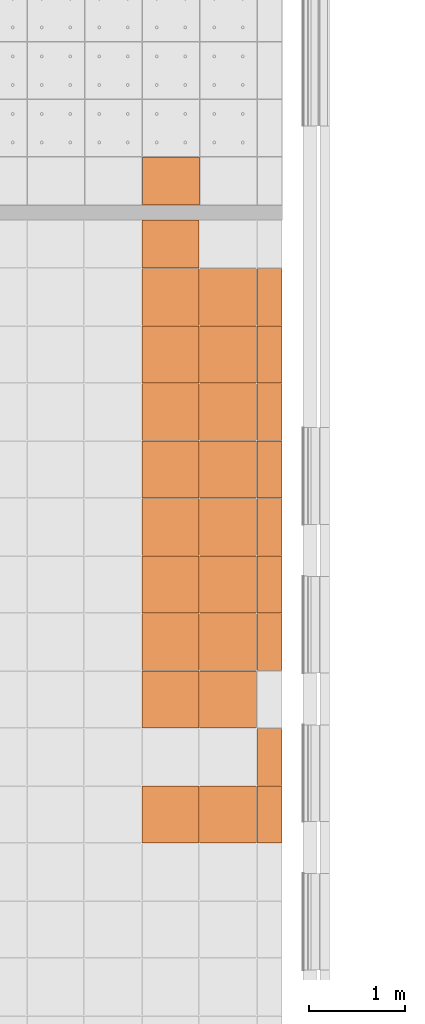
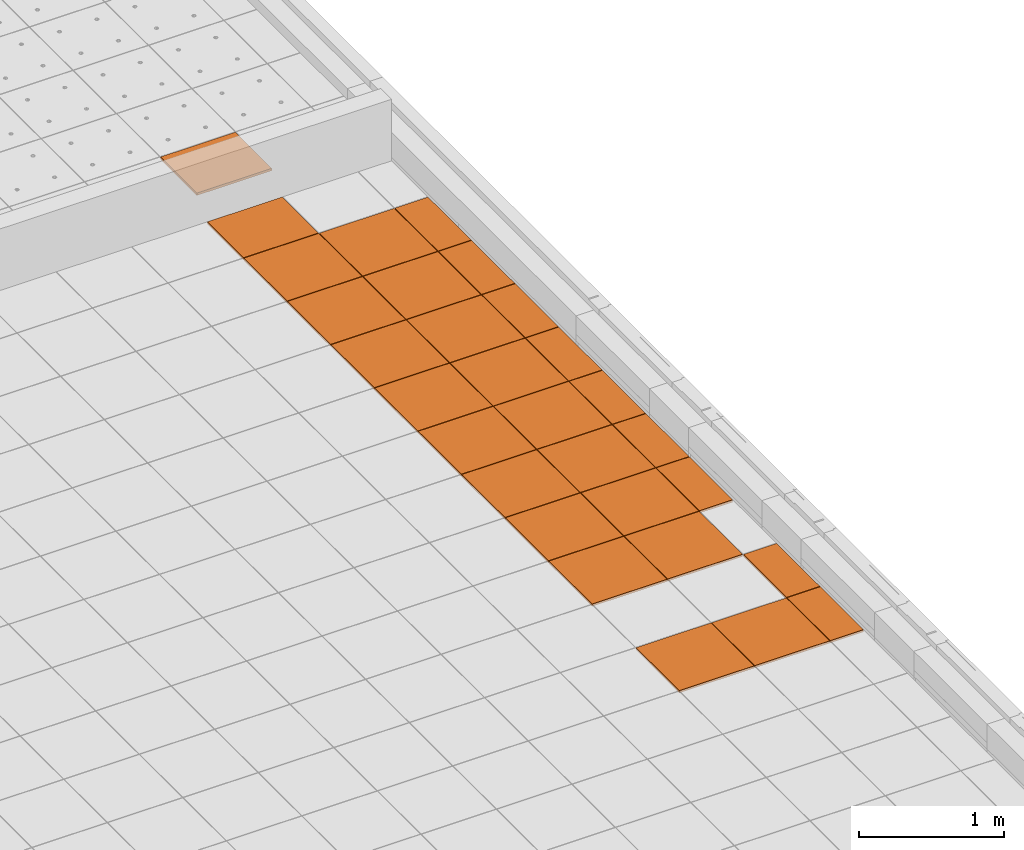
# One storey, part 224 of 338: 29 proxies, 2 elements without a shape of their own.
"""IFC2X3 building model written with IfcOpenShell, lengths in millimetres."""

import ifcopenshell
import ifcopenshell.guid

model = None  # the IFC model being written
_history = None  # IfcOwnerHistory: only IFC2X3 demands one
_inside = {}  # id of a spatial element -> (the spatial element, [elements in it])
_under = {}  # id of a project, library or spatial element -> (it, [spatial elements below it])
_declared = {}  # id of a project -> (the project, [libraries it declares])
_typed = {}  # id of a type object -> (the type object, [elements of that type])
_made_of = {}  # id of a material, layer set ... -> (it, [elements and type objects made of it])


def new_model(schema):
    """Start an empty IFC model of exactly this schema.

    Asked for "IFC4X3", IfcOpenShell would pick the latest addendum, in which some entities
    have other attributes; the version numbers below select the first issue.
    IFC2X3 requires an IfcOwnerHistory on every rooted entity: one is made here for all.
    """
    global model, _history
    if schema == "IFC4X3":
        model = ifcopenshell.file(schema_version=(4, 3, 0, 0))
    else:
        model = ifcopenshell.file(schema=schema)
    _inside.clear()
    _under.clear()
    _declared.clear()
    _typed.clear()
    _made_of.clear()
    _history = None
    if model.schema == "IFC2X3":
        org = make("IfcOrganization", Name="unknown")
        user = make(
            "IfcPersonAndOrganization",
            ThePerson=make("IfcPerson", FamilyName="unknown"),
            TheOrganization=org,
        )
        app = make(
            "IfcApplication",
            ApplicationDeveloper=org,
            Version="unknown",
            ApplicationFullName="unknown",
            ApplicationIdentifier="unknown",
        )
        _history = make(
            "IfcOwnerHistory",
            OwningUser=user,
            OwningApplication=app,
            ChangeAction="ADDED",
            CreationDate=0,
        )
    return model


def make(cls, **values):
    """One entity of the class cls with the attributes given. An attribute that is None is left unset."""
    return model.create_entity(
        cls, **{name: value for name, value in values.items() if value is not None}
    )


def entity(cls, *values):
    """Any entity or typed value of the class cls, its attributes in the order of the schema. None: left unset."""
    e = model.create_entity(cls)
    for i, value in enumerate(values):
        if value is not None:
            e[i] = value
    return e


def rooted(cls, **values):
    """An entity with a GlobalId (a new one), such as an element, a storey or a relation."""
    return make(cls, GlobalId=ifcopenshell.guid.new(), OwnerHistory=_history, **values)


def si_unit(unit_type, name, prefix=None):
    """IfcSIUnit, for example si_unit("LENGTHUNIT", "METRE", prefix="MILLI")."""
    return make("IfcSIUnit", UnitType=unit_type, Prefix=prefix, Name=name)


def converted_unit(unit_type, name, factor, base, dimensions=None, offset=None):
    """IfcConversionBasedUnit, such as the inch: factor (a typed value) times the base unit."""
    return make(
        "IfcConversionBasedUnit"
        if offset is None
        else "IfcConversionBasedUnitWithOffset",
        ConversionOffset=offset,
        Dimensions=None
        if dimensions is None
        else entity("IfcDimensionalExponents", *dimensions),
        UnitType=unit_type,
        Name=name,
        ConversionFactor=make(
            "IfcMeasureWithUnit", ValueComponent=factor, UnitComponent=base
        ),
    )


def derived_unit(unit_type, elements):
    """IfcDerivedUnit: a product of units, each with its exponent."""
    return make(
        "IfcDerivedUnit",
        Elements=[
            make("IfcDerivedUnitElement", Unit=unit, Exponent=power)
            for unit, power in elements
        ],
        UnitType=unit_type,
    )


def money_unit(currency):
    """IfcMonetaryUnit."""
    return make("IfcMonetaryUnit", Currency=currency)


def assignment(units):
    """IfcUnitAssignment: the units of a project."""
    return None if units is None else make("IfcUnitAssignment", Units=units)


def point(xyz):
    """IfcCartesianPoint."""
    return None if xyz is None else make("IfcCartesianPoint", Coordinates=xyz)


def direction(xyz):
    """IfcDirection."""
    return None if xyz is None else make("IfcDirection", DirectionRatios=xyz)


def frame(location, z_axis=None, x_axis=None):
    """IfcAxis2Placement3D, a coordinate frame: its origin and axes. An axis left out is left unset."""
    return make(
        "IfcAxis2Placement3D",
        Location=point(location),
        Axis=direction(z_axis),
        RefDirection=direction(x_axis),
    )


def origin_with_axes():
    """The frame at (0, 0, 0) with the z axis (0, 0, 1) and the x axis (1, 0, 0) written out."""
    return frame((0.0, 0.0, 0.0), z_axis=(0.0, 0.0, 1.0), x_axis=(1.0, 0.0, 0.0))


def place(relative_to, where):
    """IfcLocalPlacement: puts the frame where relative to a parent placement (None: the world)."""
    return make(
        "IfcLocalPlacement", PlacementRelTo=relative_to, RelativePlacement=where
    )


def context(
    kind, dimensions, precision=None, world=None, true_north=None, identifier=None
):
    """IfcGeometricRepresentationContext, for example the 3D "Model" context."""
    return make(
        "IfcGeometricRepresentationContext",
        ContextIdentifier=identifier,
        ContextType=kind,
        CoordinateSpaceDimension=dimensions,
        Precision=precision,
        WorldCoordinateSystem=world,
        TrueNorth=true_north,
    )


def subcontext(parent, identifier, kind, view, scale=None):
    """IfcGeometricRepresentationSubContext, for example "Body" below "Model"."""
    return make(
        "IfcGeometricRepresentationSubContext",
        ContextIdentifier=identifier,
        ContextType=kind,
        ParentContext=parent,
        TargetScale=scale,
        TargetView=view,
    )


def project(units=None, contexts=None):
    """IfcProject with its units and contexts."""
    return rooted(
        "IfcProject",
        Name="project",
        RepresentationContexts=contexts,
        UnitsInContext=assignment(units),
    )


def spatial(cls, under=None, at=None, **own):
    """A site, building, storey or space (cls), placed at a placement, below another one or the project."""
    s = rooted(cls, ObjectPlacement=at, **own)
    if under is not None:
        _under.setdefault(under.id(), (under, []))[1].append(s)
    return s


def faces_of(points, faces, orient=None, outer=None):
    """IfcFace entities. A face is a list of loops; a loop is a list of indices into points, from 0.

    orient and outer hold one flag for each loop. By default every Orientation is true, the
    first loop of a face is its IfcFaceOuterBound and the others are IfcFaceBound.
    """
    made = []
    for i, loops in enumerate(faces):
        bounds = []
        for j, loop in enumerate(loops):
            is_outer = j == 0 if outer is None else outer[i][j]
            bounds.append(
                make(
                    "IfcFaceOuterBound" if is_outer else "IfcFaceBound",
                    Bound=make("IfcPolyLoop", Polygon=[points[k] for k in loop]),
                    Orientation=True if orient is None else orient[i][j],
                )
            )
        made.append(make("IfcFace", Bounds=bounds))
    return made


def faceted_brep(points, faces, orient=None, outer=None, voids=None):
    """IfcFacetedBrep: a solid bounded by flat faces; with voids (closed shells), ...WithVoids."""
    shared = [point(p) for p in points]
    hull = make("IfcClosedShell", CfsFaces=faces_of(shared, faces, orient, outer))
    if voids is None:
        return make("IfcFacetedBrep", Outer=hull)
    return make(
        "IfcFacetedBrepWithVoids",
        Outer=hull,
        Voids=[
            make(cls, CfsFaces=faces_of(shared, fs, o, b)) for cls, fs, o, b in voids
        ],
    )


def shape(context_of_items, identifier, shape_type, items):
    """IfcShapeRepresentation: the items that make up one representation, for example the "Body"."""
    return make(
        "IfcShapeRepresentation",
        ContextOfItems=context_of_items,
        RepresentationIdentifier=identifier,
        RepresentationType=shape_type,
        Items=items,
    )


def source(mapping_origin, context_of_items, identifier, shape_type, items):
    """IfcRepresentationMap: a shape defined once, which mapped items show again and again."""
    return make(
        "IfcRepresentationMap",
        MappingOrigin=mapping_origin,
        MappedRepresentation=shape(context_of_items, identifier, shape_type, items),
    )


def transform(
    local_origin,
    x_axis=None,
    y_axis=None,
    z_axis=None,
    scale=None,
    scale2=None,
    scale3=None,
    uniform=True,
):
    """IfcCartesianTransformationOperator3D, or its non-uniform kind. x_axis, y_axis, z_axis: its Axis1, 2, 3."""
    if uniform:
        return make(
            "IfcCartesianTransformationOperator3D",
            Axis1=direction(x_axis),
            Axis2=direction(y_axis),
            LocalOrigin=point(local_origin),
            Scale=scale,
            Axis3=direction(z_axis),
        )
    return make(
        "IfcCartesianTransformationOperator3DnonUniform",
        Axis1=direction(x_axis),
        Axis2=direction(y_axis),
        LocalOrigin=point(local_origin),
        Scale=scale,
        Axis3=direction(z_axis),
        Scale2=scale2,
        Scale3=scale3,
    )


def mapped(mapping_source, mapping_target):
    """IfcMappedItem: shows the shape of a source again, moved by a transform."""
    return make(
        "IfcMappedItem", MappingSource=mapping_source, MappingTarget=mapping_target
    )


def material(Name=None, Category=None):
    """IfcMaterial."""
    return make("IfcMaterial", Name=Name, Category=Category)


def made_of(thing, what):
    """Note that an element or type object is made of a material, layer set ...; save() writes the relation."""
    if what is not None:
        _made_of.setdefault(what.id(), (what, []))[1].append(thing)
    return thing


def type_object(cls, material=None, **own):
    """A type object (cls), such as IfcWallType, which elements share."""
    return made_of(rooted(cls, **own), material)


def type_shapes(of_type, sources):
    """Give a type object the sources (RepresentationMaps) that its elements show as mapped items."""
    of_type.RepresentationMaps = sources


def element(
    cls,
    number,
    at=None,
    inside=None,
    cuts=None,
    type_object=None,
    material=None,
    context=None,
    identifier="Body",
    shape_type=None,
    held_by="IfcProductDefinitionShape",
    body=None,
    shapes=None,
    **own,
):
    """One element of the class cls, such as IfcWall. Its Tag is "e" and its number.

    at: its placement. inside: the storey or other place that contains it. cuts: it is an
    opening in that element (IfcRelVoidsElement). A single representation is given by context,
    identifier, shape_type and body (its items); several are given by shapes. held_by: the class
    of the entity that holds the representations. save() writes the other relations.
    """
    e = rooted(cls, Tag="e%d" % number, ObjectPlacement=at, **own)
    if body is not None:
        shapes = [shape(context, identifier, shape_type, body)]
    if shapes is not None:
        e.Representation = make(held_by, Representations=shapes)
    if inside is not None:
        _inside.setdefault(inside.id(), (inside, []))[1].append(e)
    if cuts is not None:
        rooted(
            "IfcRelVoidsElement", RelatingBuildingElement=cuts, RelatedOpeningElement=e
        )
    if type_object is not None:
        _typed.setdefault(type_object.id(), (type_object, []))[1].append(e)
    return made_of(e, material)


def aggregate(whole, parts):
    """IfcRelAggregates: a whole, such as a stair, and the parts it consists of."""
    return rooted("IfcRelAggregates", RelatingObject=whole, RelatedObjects=parts)


def save(model, path):
    """Write the relations noted so far, then the file.

    IfcRelAggregates (storeys below a building ...), IfcRelContainedInSpatialStructure (elements
    in a storey), IfcRelDefinesByType, IfcRelAssociatesMaterial and IfcRelDeclares: one each for
    every whole, place, type object, material and project.
    """
    for whole, parts in _under.values():
        aggregate(whole, parts)
    for where, things in _inside.values():
        rooted(
            "IfcRelContainedInSpatialStructure",
            RelatedElements=things,
            RelatingStructure=where,
        )
    for kind, things in _typed.values():
        rooted("IfcRelDefinesByType", RelatedObjects=things, RelatingType=kind)
    for what, things in _made_of.values():
        rooted("IfcRelAssociatesMaterial", RelatedObjects=things, RelatingMaterial=what)
    for by, libraries in _declared.values():
        rooted("IfcRelDeclares", RelatingContext=by, RelatedDefinitions=libraries)
    model.write(path)


model = new_model("IFC2X3")

# Units and contexts
model_context = context("Model", 3, precision=0.01, world=origin_with_axes(), true_north=direction((0.0, 1.0)))
plan_context = context("Plan", 3, precision=0.01, world=origin_with_axes(), true_north=direction((0.0, 1.0)))
body_context = subcontext(model_context, "Body", "Model", "MODEL_VIEW")
ifc_project = project(units=[si_unit("LENGTHUNIT", "METRE", prefix="MILLI"), si_unit("AREAUNIT", "SQUARE_METRE"), si_unit("VOLUMEUNIT", "CUBIC_METRE"), converted_unit("PLANEANGLEUNIT", "DEGREE", entity("IfcPlaneAngleMeasure", 0.0174532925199), si_unit("PLANEANGLEUNIT", "RADIAN"), dimensions=[0, 0, 0, 0, 0, 0, 0]), money_unit("EUR"), converted_unit("TIMEUNIT", "Year", entity("IfcTimeMeasure", 31556926.0), si_unit("TIMEUNIT", "SECOND"), dimensions=[0, 0, 1, 0, 0, 0, 0]), si_unit("MASSUNIT", "GRAM", prefix="KILO"), si_unit("THERMODYNAMICTEMPERATUREUNIT", "DEGREE_CELSIUS"), si_unit("LUMINOUSINTENSITYUNIT", "LUMEN"), si_unit("ENERGYUNIT", "JOULE", prefix="MEGA"), derived_unit("THERMALCONDUCTANCEUNIT", [(si_unit("POWERUNIT", "WATT"), 1), (si_unit("LENGTHUNIT", "METRE"), -1), (si_unit("THERMODYNAMICTEMPERATUREUNIT", "KELVIN"), -1)]), derived_unit("SPECIFICHEATCAPACITYUNIT", [(si_unit("ENERGYUNIT", "JOULE"), 1), (si_unit("MASSUNIT", "GRAM", prefix="KILO"), -1), (si_unit("THERMODYNAMICTEMPERATUREUNIT", "KELVIN"), -1)]), derived_unit("MASSDENSITYUNIT", [(si_unit("MASSUNIT", "GRAM", prefix="KILO"), 1), (si_unit("VOLUMEUNIT", "CUBIC_METRE"), -1)])], contexts=[model_context, plan_context])

# Site, building, storey
site_placement = place(None, origin_with_axes())
site = spatial("IfcSite", under=ifc_project, at=site_placement, Name="Fortuinstraat Woensdrecht", CompositionType="ELEMENT")
building_placement = place(site_placement, origin_with_axes())
building = spatial("IfcBuilding", under=site, at=building_placement, Name="IKC Fortuna", CompositionType="ELEMENT")
storey_placement = place(building_placement, origin_with_axes())
storey = spatial("IfcBuildingStorey", under=building, at=storey_placement, Name="00 begane grond", CompositionType="ELEMENT", Elevation=0.0)

# Covering, proxies
covering_type = type_object("IfcCoveringType", Name="Curtain Wall Type", PredefinedType="CEILING")
covering_1_placement = place(storey_placement, frame((34484.9342671, 3789.29664615, 3065.0), z_axis=(0.0, 0.0, 1.0), x_axis=(1.0, 0.0, 0.0)))
covering_1 = element("IfcCovering", 1, at=covering_1_placement, inside=storey, type_object=covering_type, Name="45_Plafondafwerking_P02 gec", PredefinedType="CEILING")
ifc_material = material(Name="Gipsplaat")
building_element_proxy_type_1 = type_object("IfcBuildingElementProxyType", Name="Distinct Panel 600 x 600 x 20", PredefinedType="NOTDEFINED")
shared_shape_1 = source(origin_with_axes(), body_context, "Body", "Brep", [
    faceted_brep([(-2.49999999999, 2.5, -10.0), (-2.49999999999, 2.5, 10.0), (-597.5, 2.49999999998, 10.0), (-597.5, 2.49999999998, -10.0), (-2.50000000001, 597.5, -10.0), (-2.50000000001, 597.5, 10.0), (-597.5, 597.5, 10.0), (-597.5, 597.5, -10.0)], [[[0, 1, 2, 3]], [[4, 5, 1, 0]], [[1, 5, 6, 2]], [[3, 2, 6, 7]], [[0, 3, 7, 4]], [[7, 6, 5, 4]]]),
])
proxy_1_placement = place(covering_1_placement, frame((-1034.49272604, 6599.99997773, 2.54019028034e-10), z_axis=(0.0, 0.0, 1.0), x_axis=(1.0, 0.0, 0.0)))
proxy_1 = element("IfcBuildingElementProxy", 2, at=proxy_1_placement, type_object=building_element_proxy_type_1, material=ifc_material, Name="__Panel-D", context=body_context, shape_type="MappedRepresentation", body=[
    mapped(shared_shape_1, transform((-300.0, 300.0, 0.0), x_axis=(-1.0, 0.0, 0.0), y_axis=(0.0, -1.0, 0.0), z_axis=(0.0, 0.0, 1.0))),
])
proxy_2_placement = place(covering_1_placement, frame((-1034.49272604, 5399.99998887, 2.54019028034e-10), z_axis=(0.0, 0.0, 1.0), x_axis=(1.0, 0.0, 0.0)))
proxy_2 = element("IfcBuildingElementProxy", 3, at=proxy_2_placement, type_object=building_element_proxy_type_1, material=ifc_material, Name="__Panel-D", context=body_context, shape_type="MappedRepresentation", body=[
    mapped(shared_shape_1, transform((-300.0, 299.999988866, 0.0), x_axis=(-1.0, 0.0, 0.0), y_axis=(0.0, -1.0, 0.0), z_axis=(0.0, 0.0, 1.0))),
])
proxy_3_placement = place(covering_1_placement, frame((-1034.49272604, 5999.99997773, 2.54019028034e-10), z_axis=(0.0, 0.0, 1.0), x_axis=(1.0, 0.0, 0.0)))
proxy_3 = element("IfcBuildingElementProxy", 4, at=proxy_3_placement, type_object=building_element_proxy_type_1, material=ifc_material, Name="__Panel-D", context=body_context, shape_type="MappedRepresentation", body=[
    mapped(shared_shape_1, transform((-300.0, 300.0, 0.0), x_axis=(-1.0, 0.0, 0.0), y_axis=(0.0, -1.0, 0.0), z_axis=(0.0, 0.0, 1.0))),
])
proxy_4_placement = place(covering_1_placement, frame((-1034.49272604, 4800.0, 2.54019028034e-10), z_axis=(0.0, 0.0, 1.0), x_axis=(1.0, 0.0, 0.0)))
proxy_4 = element("IfcBuildingElementProxy", 5, at=proxy_4_placement, type_object=building_element_proxy_type_1, material=ifc_material, Name="__Panel-D", context=body_context, shape_type="MappedRepresentation", body=[
    mapped(shared_shape_1, transform((-300.0, 300.0, 0.0), x_axis=(-1.0, 0.0, 0.0), y_axis=(0.0, -1.0, 0.0), z_axis=(0.0, 0.0, 1.0))),
])
proxy_5_placement = place(covering_1_placement, frame((-1034.49272604, 4200.0, 2.54019028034e-10), z_axis=(0.0, 0.0, 1.0), x_axis=(1.0, 0.0, 0.0)))
proxy_5 = element("IfcBuildingElementProxy", 6, at=proxy_5_placement, type_object=building_element_proxy_type_1, material=ifc_material, Name="__Panel-D", context=body_context, shape_type="MappedRepresentation", body=[
    mapped(shared_shape_1, transform((-300.0, 300.0, 0.0), x_axis=(-1.0, 0.0, 0.0), y_axis=(0.0, -1.0, 0.0), z_axis=(0.0, 0.0, 1.0))),
])
proxy_6_placement = place(covering_1_placement, frame((-1034.49272604, 3600.0, 2.54019028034e-10), z_axis=(0.0, 0.0, 1.0), x_axis=(1.0, 0.0, 0.0)))
proxy_6 = element("IfcBuildingElementProxy", 7, at=proxy_6_placement, type_object=building_element_proxy_type_1, material=ifc_material, Name="__Panel-D", context=body_context, shape_type="MappedRepresentation", body=[
    mapped(shared_shape_1, transform((-300.0, 300.0, 0.0), x_axis=(-1.0, 0.0, 0.0), y_axis=(0.0, -1.0, 0.0), z_axis=(0.0, 0.0, 1.0))),
])
proxy_7_placement = place(covering_1_placement, frame((-1034.49272604, 3000.0, 2.54019028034e-10), z_axis=(0.0, 0.0, 1.0), x_axis=(1.0, 0.0, 0.0)))
proxy_7 = element("IfcBuildingElementProxy", 8, at=proxy_7_placement, type_object=building_element_proxy_type_1, material=ifc_material, Name="__Panel-D", context=body_context, shape_type="MappedRepresentation", body=[
    mapped(shared_shape_1, transform((-300.0, 300.0, 0.0), x_axis=(-1.0, 0.0, 0.0), y_axis=(0.0, -1.0, 0.0), z_axis=(0.0, 0.0, 1.0))),
])
proxy_8_placement = place(covering_1_placement, frame((-1034.49272604, 2400.0, 2.54019028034e-10), z_axis=(0.0, 0.0, 1.0), x_axis=(1.0, 0.0, 0.0)))
proxy_8 = element("IfcBuildingElementProxy", 9, at=proxy_8_placement, type_object=building_element_proxy_type_1, material=ifc_material, Name="__Panel-D", context=body_context, shape_type="MappedRepresentation", body=[
    mapped(shared_shape_1, transform((-300.0, 300.0, 0.0), x_axis=(-1.0, 0.0, 0.0), y_axis=(0.0, -1.0, 0.0), z_axis=(0.0, 0.0, 1.0))),
])
proxy_9_placement = place(covering_1_placement, frame((-1034.49272604, 1200.0, 2.54019028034e-10), z_axis=(0.0, 0.0, 1.0), x_axis=(1.0, 0.0, 0.0)))
proxy_9 = element("IfcBuildingElementProxy", 10, at=proxy_9_placement, type_object=building_element_proxy_type_1, material=ifc_material, Name="__Panel-D", context=body_context, shape_type="MappedRepresentation", body=[
    mapped(shared_shape_1, transform((-300.0, 300.0, 0.0), x_axis=(-1.0, 0.0, 0.0), y_axis=(0.0, -1.0, 0.0), z_axis=(0.0, 0.0, 1.0))),
])
building_element_proxy_type_2 = type_object("IfcBuildingElementProxyType", Name="Distinct Panel 269 x 600 x 20", PredefinedType="NOTDEFINED")
shared_shape_2 = source(origin_with_axes(), body_context, "Body", "Brep", [
    faceted_brep([(-2.49999861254, 2.5, -10.0), (-2.49999861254, 2.5, 10.0), (-266.485452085, 2.49999999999, 10.0), (-266.485452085, 2.49999999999, -10.0), (-2.49999861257, 597.5, -10.0), (-2.49999861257, 597.5, 10.0), (-266.485452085, 597.5, 10.0), (-266.485452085, 597.5, -10.0)], [[[0, 1, 2, 3]], [[4, 5, 1, 0]], [[1, 5, 6, 2]], [[3, 2, 6, 7]], [[0, 3, 7, 4]], [[7, 6, 5, 4]]]),
])
proxy_10_placement = place(covering_1_placement, frame((0.0, 1200.0, 2.87325718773e-10), z_axis=(0.0, 0.0, 1.0), x_axis=(1.0, 0.0, 0.0)))
proxy_10 = element("IfcBuildingElementProxy", 11, at=proxy_10_placement, type_object=building_element_proxy_type_2, material=ifc_material, Name="__Panel-D", context=body_context, shape_type="MappedRepresentation", body=[
    mapped(shared_shape_2, transform((-134.492726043, 300.0, 0.0), x_axis=(-1.0, 0.0, 0.0), y_axis=(0.0, -1.0, 0.0), z_axis=(0.0, 0.0, 1.0))),
])
proxy_11_placement = place(covering_1_placement, frame((0.0, 1800.0, 2.87325718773e-10), z_axis=(0.0, 0.0, 1.0), x_axis=(1.0, 0.0, 0.0)))
proxy_11 = element("IfcBuildingElementProxy", 12, at=proxy_11_placement, type_object=building_element_proxy_type_2, material=ifc_material, Name="__Panel-D", context=body_context, shape_type="MappedRepresentation", body=[
    mapped(shared_shape_2, transform((-134.492726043, 300.0, 0.0), x_axis=(-1.0, 0.0, 0.0), y_axis=(0.0, -1.0, 0.0), z_axis=(0.0, 0.0, 1.0))),
])
shared_shape_3 = source(origin_with_axes(), body_context, "Body", "Brep", [
    faceted_brep([(-2.50000185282, 2.50000514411, -10.0), (-2.50000185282, 2.50000514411, 10.0), (-597.499994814, 2.50000188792, 10.0), (-597.499994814, 2.50000188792, -10.0), (-2.50000510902, 597.499998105, -10.0), (-2.50000510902, 597.499998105, 10.0), (-597.49998844, 597.50000293, 10.0), (-597.49998844, 597.50000293, -10.0)], [[[0, 1, 2, 3]], [[4, 5, 1, 0]], [[1, 5, 6, 2]], [[3, 2, 6, 7]], [[0, 3, 7, 4]], [[7, 6, 5, 4]]]),
])
proxy_12_placement = place(covering_1_placement, frame((-434.492726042, 6599.99997773, 2.73558953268e-10), z_axis=(0.0, 0.0, 1.0), x_axis=(1.0, 0.0, 0.0)))
proxy_12 = element("IfcBuildingElementProxy", 13, at=proxy_12_placement, type_object=building_element_proxy_type_1, material=ifc_material, Name="__Panel-D", context=body_context, shape_type="MappedRepresentation", body=[
    mapped(shared_shape_3, transform((-300.0, 300.0, 0.0), x_axis=(-1.0, 0.0, 0.0), y_axis=(0.0, -1.0, 0.0), z_axis=(0.0, 0.0, 1.0))),
])
proxy_13_placement = place(covering_1_placement, frame((-434.492726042, 5999.99997773, 2.73558953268e-10), z_axis=(0.0, 0.0, 1.0), x_axis=(1.0, 0.0, 0.0)))
proxy_13 = element("IfcBuildingElementProxy", 14, at=proxy_13_placement, type_object=building_element_proxy_type_1, material=ifc_material, Name="__Panel-D", context=body_context, shape_type="MappedRepresentation", body=[
    mapped(shared_shape_3, transform((-300.0, 300.0, 0.0), x_axis=(-1.0, 0.0, 0.0), y_axis=(0.0, -1.0, 0.0), z_axis=(0.0, 0.0, 1.0))),
])
proxy_14_placement = place(covering_1_placement, frame((-434.492726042, 5399.99998887, 2.73558953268e-10), z_axis=(0.0, 0.0, 1.0), x_axis=(1.0, 0.0, 0.0)))
proxy_14 = element("IfcBuildingElementProxy", 15, at=proxy_14_placement, type_object=building_element_proxy_type_1, material=ifc_material, Name="__Panel-D", context=body_context, shape_type="MappedRepresentation", body=[
    mapped(shared_shape_3, transform((-300.0, 299.999988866, 0.0), x_axis=(-1.0, 0.0, 0.0), y_axis=(0.0, -1.0, 0.0), z_axis=(0.0, 0.0, 1.0))),
])
proxy_15_placement = place(covering_1_placement, frame((-434.492726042, 4800.0, 2.73558953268e-10), z_axis=(0.0, 0.0, 1.0), x_axis=(1.0, 0.0, 0.0)))
proxy_15 = element("IfcBuildingElementProxy", 16, at=proxy_15_placement, type_object=building_element_proxy_type_1, material=ifc_material, Name="__Panel-D", context=body_context, shape_type="MappedRepresentation", body=[
    mapped(shared_shape_3, transform((-300.0, 300.0, 0.0), x_axis=(-1.0, 0.0, 0.0), y_axis=(0.0, -1.0, 0.0), z_axis=(0.0, 0.0, 1.0))),
])
proxy_16_placement = place(covering_1_placement, frame((-434.492726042, 4200.0, 2.73558953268e-10), z_axis=(0.0, 0.0, 1.0), x_axis=(1.0, 0.0, 0.0)))
proxy_16 = element("IfcBuildingElementProxy", 17, at=proxy_16_placement, type_object=building_element_proxy_type_1, material=ifc_material, Name="__Panel-D", context=body_context, shape_type="MappedRepresentation", body=[
    mapped(shared_shape_3, transform((-300.0, 300.0, 0.0), x_axis=(-1.0, 0.0, 0.0), y_axis=(0.0, -1.0, 0.0), z_axis=(0.0, 0.0, 1.0))),
])
proxy_17_placement = place(covering_1_placement, frame((-434.492726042, 3600.0, 2.73558953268e-10), z_axis=(0.0, 0.0, 1.0), x_axis=(1.0, 0.0, 0.0)))
proxy_17 = element("IfcBuildingElementProxy", 18, at=proxy_17_placement, type_object=building_element_proxy_type_1, material=ifc_material, Name="__Panel-D", context=body_context, shape_type="MappedRepresentation", body=[
    mapped(shared_shape_3, transform((-300.0, 300.0, 0.0), x_axis=(-1.0, 0.0, 0.0), y_axis=(0.0, -1.0, 0.0), z_axis=(0.0, 0.0, 1.0))),
])
proxy_18_placement = place(covering_1_placement, frame((-434.492726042, 3000.0, 2.73558953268e-10), z_axis=(0.0, 0.0, 1.0), x_axis=(1.0, 0.0, 0.0)))
proxy_18 = element("IfcBuildingElementProxy", 19, at=proxy_18_placement, type_object=building_element_proxy_type_1, material=ifc_material, Name="__Panel-D", context=body_context, shape_type="MappedRepresentation", body=[
    mapped(shared_shape_3, transform((-300.0, 300.0, 0.0), x_axis=(-1.0, 0.0, 0.0), y_axis=(0.0, -1.0, 0.0), z_axis=(0.0, 0.0, 1.0))),
])
proxy_19_placement = place(covering_1_placement, frame((-434.492726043, 2400.0, 2.73558953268e-10), z_axis=(0.0, 0.0, 1.0), x_axis=(1.0, 0.0, 0.0)))
proxy_19 = element("IfcBuildingElementProxy", 20, at=proxy_19_placement, type_object=building_element_proxy_type_1, material=ifc_material, Name="__Panel-D", context=body_context, shape_type="MappedRepresentation", body=[
    mapped(shared_shape_3, transform((-300.0, 300.0, 0.0), x_axis=(-1.0, 0.0, 0.0), y_axis=(0.0, -1.0, 0.0), z_axis=(0.0, 0.0, 1.0))),
])
shared_shape_4 = source(origin_with_axes(), body_context, "Body", "Brep", [
    faceted_brep([(-2.49999999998, 2.5, -10.0), (-2.49999999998, 2.5, 10.0), (-597.5, 2.49999999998, 10.0), (-597.5, 2.49999999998, -10.0), (-2.50000000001, 597.5, -10.0), (-2.50000000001, 597.5, 10.0), (-597.5, 597.5, 10.0), (-597.5, 597.5, -10.0)], [[[0, 1, 2, 3]], [[4, 5, 1, 0]], [[1, 5, 6, 2]], [[3, 2, 6, 7]], [[0, 3, 7, 4]], [[7, 6, 5, 4]]]),
])
type_shapes(building_element_proxy_type_1, [shared_shape_1, shared_shape_3, shared_shape_4])
proxy_20_placement = place(covering_1_placement, frame((-434.492726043, 1200.0, 2.73114864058e-10), z_axis=(0.0, 0.0, 1.0), x_axis=(1.0, 0.0, 0.0)))
proxy_20 = element("IfcBuildingElementProxy", 21, at=proxy_20_placement, type_object=building_element_proxy_type_1, material=ifc_material, Name="__Panel-D", context=body_context, shape_type="MappedRepresentation", body=[
    mapped(shared_shape_4, transform((-300.0, 300.0, 0.0), x_axis=(-1.0, 0.0, 0.0), y_axis=(0.0, -1.0, 0.0), z_axis=(0.0, 0.0, 1.0))),
])
building_element_proxy_type_3 = type_object("IfcBuildingElementProxyType", Name="Distinct Panel 600 x 503 x 20", PredefinedType="NOTDEFINED")
shared_shape_5 = source(origin_with_axes(), body_context, "Body", "Brep", [
    faceted_brep([(-2.49999999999, 99.4999854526, -10.0), (-2.49999999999, 99.4999854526, 10.0), (-597.5, 99.4999854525, 10.0), (-597.5, 99.4999854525, -10.0), (-2.50000000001, 597.500003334, -10.0), (-2.50000000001, 597.500003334, 10.0), (-597.5, 597.500003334, 10.0), (-597.5, 597.500003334, -10.0)], [[[0, 1, 2, 3]], [[4, 5, 1, 0]], [[1, 5, 6, 2]], [[3, 2, 6, 7]], [[0, 3, 7, 4]], [[7, 6, 5, 4]]]),
])
type_shapes(building_element_proxy_type_3, [shared_shape_5])
proxy_21_placement = place(covering_1_placement, frame((-1034.49272604, 7151.4999872, 2.54019028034e-10), z_axis=(0.0, 0.0, 1.0), x_axis=(1.0, 0.0, 0.0)))
proxy_21 = element("IfcBuildingElementProxy", 22, at=proxy_21_placement, type_object=building_element_proxy_type_3, material=ifc_material, Name="__Panel-D", context=body_context, shape_type="MappedRepresentation", body=[
    mapped(shared_shape_5, transform((-300.0, 348.500012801, 0.0), x_axis=(-1.0, 0.0, 0.0), y_axis=(0.0, -1.0, 0.0), z_axis=(0.0, 0.0, 1.0))),
])
shared_shape_6 = source(origin_with_axes(), body_context, "Body", "Brep", [
    faceted_brep([(-2.49999861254, 2.5, -10.0), (-2.49999861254, 2.5, 10.0), (-266.485452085, 2.49999999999, 10.0), (-266.485452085, 2.49999999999, -10.0), (-2.49999861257, 597.5, -10.0), (-2.49999861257, 597.5, 10.0), (-266.485452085, 597.5, 10.0), (-266.485452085, 597.5, -10.0)], [[[0, 1, 2, 3]], [[4, 5, 1, 0]], [[1, 5, 6, 2]], [[3, 2, 6, 7]], [[0, 3, 7, 4]], [[7, 6, 5, 4]]]),
])
type_shapes(building_element_proxy_type_2, [shared_shape_2, shared_shape_6])
proxy_22_placement = place(covering_1_placement, frame((1.56319401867e-10, 6599.99997773, 2.87325718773e-10), z_axis=(0.0, 0.0, 1.0), x_axis=(1.0, 0.0, 0.0)))
proxy_22 = element("IfcBuildingElementProxy", 23, at=proxy_22_placement, type_object=building_element_proxy_type_2, material=ifc_material, Name="__Panel-D", context=body_context, shape_type="MappedRepresentation", body=[
    mapped(shared_shape_6, transform((-134.492726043, 300.0, 0.0), x_axis=(-1.0, 0.0, 0.0), y_axis=(0.0, -1.0, 0.0), z_axis=(0.0, 0.0, 1.0))),
])
proxy_23_placement = place(covering_1_placement, frame((1.42108547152e-10, 5999.99997773, 2.87325718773e-10), z_axis=(0.0, 0.0, 1.0), x_axis=(1.0, 0.0, 0.0)))
proxy_23 = element("IfcBuildingElementProxy", 24, at=proxy_23_placement, type_object=building_element_proxy_type_2, material=ifc_material, Name="__Panel-D", context=body_context, shape_type="MappedRepresentation", body=[
    mapped(shared_shape_6, transform((-134.492726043, 300.0, 0.0), x_axis=(-1.0, 0.0, 0.0), y_axis=(0.0, -1.0, 0.0), z_axis=(0.0, 0.0, 1.0))),
])
proxy_24_placement = place(covering_1_placement, frame((1.27897692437e-10, 5399.99998887, 2.87325718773e-10), z_axis=(0.0, 0.0, 1.0), x_axis=(1.0, 0.0, 0.0)))
proxy_24 = element("IfcBuildingElementProxy", 25, at=proxy_24_placement, type_object=building_element_proxy_type_2, material=ifc_material, Name="__Panel-D", context=body_context, shape_type="MappedRepresentation", body=[
    mapped(shared_shape_6, transform((-134.492726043, 299.999988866, 0.0), x_axis=(-1.0, 0.0, 0.0), y_axis=(0.0, -1.0, 0.0), z_axis=(0.0, 0.0, 1.0))),
])
proxy_25_placement = place(covering_1_placement, frame((1.13686837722e-10, 4800.0, 2.87325718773e-10), z_axis=(0.0, 0.0, 1.0), x_axis=(1.0, 0.0, 0.0)))
proxy_25 = element("IfcBuildingElementProxy", 26, at=proxy_25_placement, type_object=building_element_proxy_type_2, material=ifc_material, Name="__Panel-D", context=body_context, shape_type="MappedRepresentation", body=[
    mapped(shared_shape_6, transform((-134.492726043, 300.0, 0.0), x_axis=(-1.0, 0.0, 0.0), y_axis=(0.0, -1.0, 0.0), z_axis=(0.0, 0.0, 1.0))),
])
proxy_26_placement = place(covering_1_placement, frame((0.0, 4200.0, 2.87325718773e-10), z_axis=(0.0, 0.0, 1.0), x_axis=(1.0, 0.0, 0.0)))
proxy_26 = element("IfcBuildingElementProxy", 27, at=proxy_26_placement, type_object=building_element_proxy_type_2, material=ifc_material, Name="__Panel-D", context=body_context, shape_type="MappedRepresentation", body=[
    mapped(shared_shape_6, transform((-134.492726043, 300.0, 0.0), x_axis=(-1.0, 0.0, 0.0), y_axis=(0.0, -1.0, 0.0), z_axis=(0.0, 0.0, 1.0))),
])
proxy_27_placement = place(covering_1_placement, frame((0.0, 3600.0, 2.87325718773e-10), z_axis=(0.0, 0.0, 1.0), x_axis=(1.0, 0.0, 0.0)))
proxy_27 = element("IfcBuildingElementProxy", 28, at=proxy_27_placement, type_object=building_element_proxy_type_2, material=ifc_material, Name="__Panel-D", context=body_context, shape_type="MappedRepresentation", body=[
    mapped(shared_shape_6, transform((-134.492726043, 300.0, 0.0), x_axis=(-1.0, 0.0, 0.0), y_axis=(0.0, -1.0, 0.0), z_axis=(0.0, 0.0, 1.0))),
])
proxy_28_placement = place(covering_1_placement, frame((0.0, 3000.0, 2.87325718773e-10), z_axis=(0.0, 0.0, 1.0), x_axis=(1.0, 0.0, 0.0)))
proxy_28 = element("IfcBuildingElementProxy", 29, at=proxy_28_placement, type_object=building_element_proxy_type_2, material=ifc_material, Name="__Panel-D", context=body_context, shape_type="MappedRepresentation", body=[
    mapped(shared_shape_6, transform((-134.492726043, 300.0, 0.0), x_axis=(-1.0, 0.0, 0.0), y_axis=(0.0, -1.0, 0.0), z_axis=(0.0, 0.0, 1.0))),
])
aggregate(covering_1, [proxy_10, proxy_1, proxy_12, proxy_13, proxy_14, proxy_2, proxy_3, proxy_4, proxy_15, proxy_16, proxy_5, proxy_6, proxy_17, proxy_18, proxy_7, proxy_8, proxy_19, proxy_20, proxy_9, proxy_21, proxy_22, proxy_23, proxy_24, proxy_25, proxy_26, proxy_27, proxy_28, proxy_11])

# Covering, proxy
covering_2_placement = place(storey_placement, frame((31656.9226967, 15748.5304598, 3210.0), z_axis=(0.0, 0.0, 1.0), x_axis=(1.0, 0.0, 0.0)))
covering_2 = element("IfcCovering", 30, at=covering_2_placement, inside=storey, type_object=covering_type, Name="45_Plafondafwerking_P01", PredefinedType="CEILING")
building_element_proxy_type_4 = type_object("IfcBuildingElementProxyType", Name="600 x 506 x 20", PredefinedType="NOTDEFINED")
shared_shape_7 = source(origin_with_axes(), body_context, "Body", "Brep", [
    faceted_brep([(2.49999999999, 2.49999996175, -10.0), (597.5, 2.49999996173, -10.0), (597.5, 2.49999996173, 10.0), (2.49999999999, 2.49999996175, 10.0), (2.50000000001, 503.733772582, -10.0), (597.5, 503.733772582, -10.0), (597.5, 503.733772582, 10.0), (2.50000000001, 503.733772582, 10.0)], [[[0, 1, 2, 3]], [[0, 4, 5, 1]], [[1, 5, 6, 2]], [[3, 2, 6, 7]], [[4, 0, 3, 7]], [[5, 4, 7, 6]]]),
])
type_shapes(building_element_proxy_type_4, [shared_shape_7])
proxy_29_placement = place(covering_2_placement, frame((1800.0, -4153.11688648, 0.0), z_axis=(0.0, 0.0, 1.0), x_axis=(1.0, 0.0, 0.0)))
proxy_29 = element("IfcBuildingElementProxy", 31, at=proxy_29_placement, type_object=building_element_proxy_type_4, material=ifc_material, Name="__600x649 Rockfon Krios", context=body_context, shape_type="MappedRepresentation", body=[
    mapped(shared_shape_7, transform((300.0, 253.116886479, 0.0), x_axis=(-1.0, 0.0, 0.0), y_axis=(0.0, -1.0, 0.0), z_axis=(0.0, 0.0, 1.0))),
])
aggregate(covering_2, [proxy_29])

save(model, "model.ifc")
